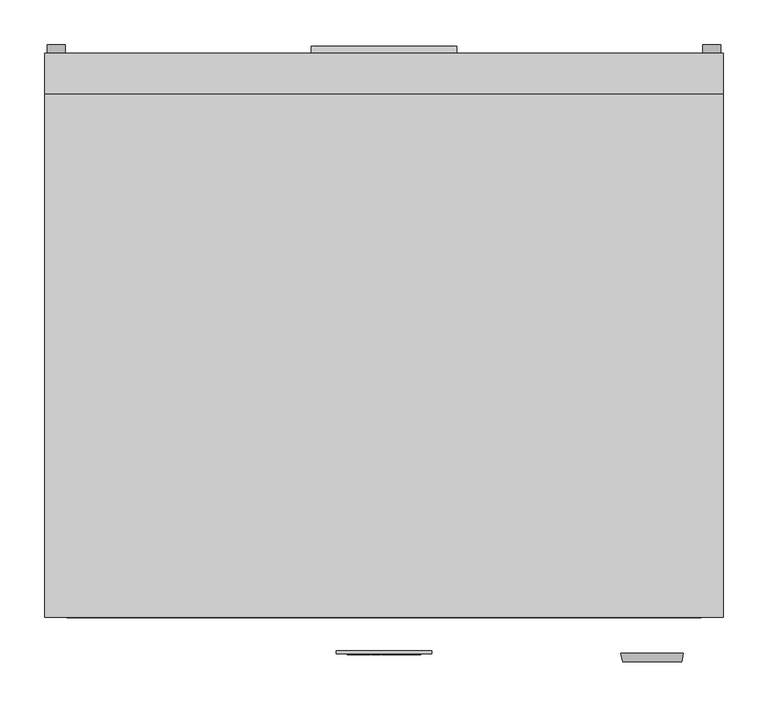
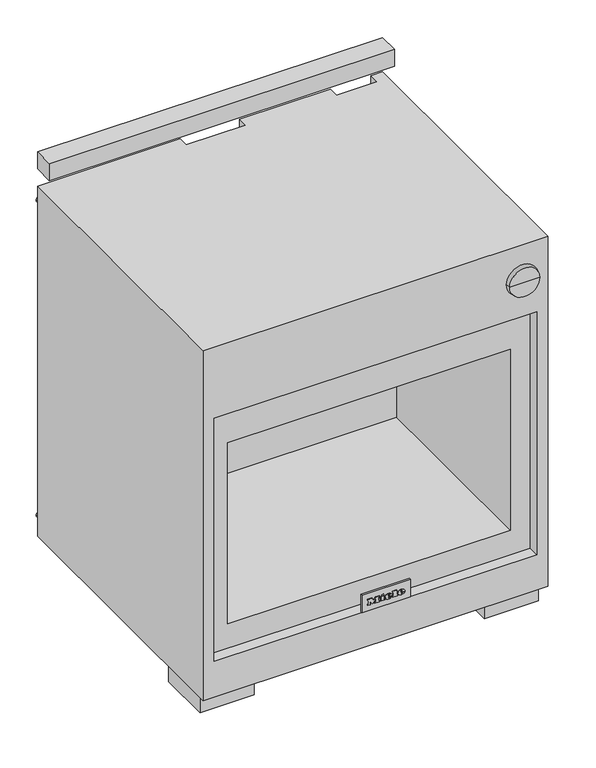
"""IFC4 building model written with IfcOpenShell, lengths in millimetres: proxy geometry, 11791360_USA_HR1124-3G_EDST-CLST : 25112481_USA_11791360_HR1124-3G_EDST-CLST."""

import ifcopenshell
import ifcopenshell.guid

model = None  # the IFC model being written
_history = None  # IfcOwnerHistory: only IFC2X3 demands one
_inside = {}  # id of a spatial element -> (the spatial element, [elements in it])
_under = {}  # id of a project, library or spatial element -> (it, [spatial elements below it])
_declared = {}  # id of a project -> (the project, [libraries it declares])
_typed = {}  # id of a type object -> (the type object, [elements of that type])
_made_of = {}  # id of a material, layer set ... -> (it, [elements and type objects made of it])


def new_model(schema):
    """Start an empty IFC model of exactly this schema.

    Asked for "IFC4X3", IfcOpenShell would pick the latest addendum, in which some entities
    have other attributes; the version numbers below select the first issue.
    IFC2X3 requires an IfcOwnerHistory on every rooted entity: one is made here for all.
    """
    global model, _history
    if schema == "IFC4X3":
        model = ifcopenshell.file(schema_version=(4, 3, 0, 0))
    else:
        model = ifcopenshell.file(schema=schema)
    _inside.clear()
    _under.clear()
    _declared.clear()
    _typed.clear()
    _made_of.clear()
    _history = None
    if model.schema == "IFC2X3":
        org = make("IfcOrganization", Name="unknown")
        user = make(
            "IfcPersonAndOrganization",
            ThePerson=make("IfcPerson", FamilyName="unknown"),
            TheOrganization=org,
        )
        app = make(
            "IfcApplication",
            ApplicationDeveloper=org,
            Version="unknown",
            ApplicationFullName="unknown",
            ApplicationIdentifier="unknown",
        )
        _history = make(
            "IfcOwnerHistory",
            OwningUser=user,
            OwningApplication=app,
            ChangeAction="ADDED",
            CreationDate=0,
        )
    return model


def make(cls, **values):
    """One entity of the class cls with the attributes given. An attribute that is None is left unset."""
    return model.create_entity(
        cls, **{name: value for name, value in values.items() if value is not None}
    )


def rooted(cls, **values):
    """An entity with a GlobalId (a new one), such as an element, a storey or a relation."""
    return make(cls, GlobalId=ifcopenshell.guid.new(), OwnerHistory=_history, **values)


def si_unit(unit_type, name, prefix=None):
    """IfcSIUnit, for example si_unit("LENGTHUNIT", "METRE", prefix="MILLI")."""
    return make("IfcSIUnit", UnitType=unit_type, Prefix=prefix, Name=name)


def assignment(units):
    """IfcUnitAssignment: the units of a project."""
    return None if units is None else make("IfcUnitAssignment", Units=units)


def point(xyz):
    """IfcCartesianPoint."""
    return None if xyz is None else make("IfcCartesianPoint", Coordinates=xyz)


def direction(xyz):
    """IfcDirection."""
    return None if xyz is None else make("IfcDirection", DirectionRatios=xyz)


def frame(location, z_axis=None, x_axis=None):
    """IfcAxis2Placement3D, a coordinate frame: its origin and axes. An axis left out is left unset."""
    return make(
        "IfcAxis2Placement3D",
        Location=point(location),
        Axis=direction(z_axis),
        RefDirection=direction(x_axis),
    )


def frame_2d(location, x_axis=None):
    """IfcAxis2Placement2D, a coordinate frame in the plane: its origin and x axis."""
    return make(
        "IfcAxis2Placement2D", Location=point(location), RefDirection=direction(x_axis)
    )


def origin():
    """The frame at (0, 0, 0) with its axes left unset."""
    return frame((0.0, 0.0, 0.0))


def origin_with_axes():
    """The frame at (0, 0, 0) with the z axis (0, 0, 1) and the x axis (1, 0, 0) written out."""
    return frame((0.0, 0.0, 0.0), z_axis=(0.0, 0.0, 1.0), x_axis=(1.0, 0.0, 0.0))


def place(relative_to, where):
    """IfcLocalPlacement: puts the frame where relative to a parent placement (None: the world)."""
    return make(
        "IfcLocalPlacement", PlacementRelTo=relative_to, RelativePlacement=where
    )


def context(
    kind, dimensions, precision=None, world=None, true_north=None, identifier=None
):
    """IfcGeometricRepresentationContext, for example the 3D "Model" context."""
    return make(
        "IfcGeometricRepresentationContext",
        ContextIdentifier=identifier,
        ContextType=kind,
        CoordinateSpaceDimension=dimensions,
        Precision=precision,
        WorldCoordinateSystem=world,
        TrueNorth=true_north,
    )


def project(units=None, contexts=None):
    """IfcProject with its units and contexts."""
    return rooted(
        "IfcProject",
        Name="project",
        RepresentationContexts=contexts,
        UnitsInContext=assignment(units),
    )


def spatial(cls, under=None, at=None, **own):
    """A site, building, storey or space (cls), placed at a placement, below another one or the project."""
    s = rooted(cls, ObjectPlacement=at, **own)
    if under is not None:
        _under.setdefault(under.id(), (under, []))[1].append(s)
    return s


def polyline(points):
    """IfcPolyline through the points."""
    return make("IfcPolyline", Points=[point(p) for p in points])


def circle_curve(where, radius):
    """IfcCircle in the frame where."""
    return make("IfcCircle", Position=where, Radius=radius)


def ellipse_curve(where, semi_axis1, semi_axis2):
    """IfcEllipse in the frame where."""
    return make(
        "IfcEllipse", Position=where, SemiAxis1=semi_axis1, SemiAxis2=semi_axis2
    )


def trimmed(basis, trim1, trim2, sense, master):
    """IfcTrimmedCurve: the piece of a basis curve between two trims."""
    return make(
        "IfcTrimmedCurve",
        BasisCurve=basis,
        Trim1=trim1,
        Trim2=trim2,
        SenseAgreement=sense,
        MasterRepresentation=master,
    )


def segment(curve, same_sense, transition):
    """IfcCompositeCurveSegment."""
    return make(
        "IfcCompositeCurveSegment",
        Transition=transition,
        SameSense=same_sense,
        ParentCurve=curve,
    )


def composite_curve(segments, self_intersect=None):
    """IfcCompositeCurve: segments joined end to end."""
    return make("IfcCompositeCurve", Segments=segments, SelfIntersect=self_intersect)


def outline(outer, holes=None, kind="AREA"):
    """IfcArbitraryClosedProfileDef: a profile drawn as a closed curve; with holes, ...WithVoids."""
    if holes is None:
        return make("IfcArbitraryClosedProfileDef", ProfileType=kind, OuterCurve=outer)
    return make(
        "IfcArbitraryProfileDefWithVoids",
        ProfileType=kind,
        OuterCurve=outer,
        InnerCurves=holes,
    )


def extrude(swept, where, along, depth):
    """IfcExtrudedAreaSolid: the profile swept, set in the frame where, extruded along a direction by depth."""
    return make(
        "IfcExtrudedAreaSolid",
        SweptArea=swept,
        Position=where,
        ExtrudedDirection=direction(along),
        Depth=depth,
    )


def faces_of(points, faces, orient=None, outer=None):
    """IfcFace entities. A face is a list of loops; a loop is a list of indices into points, from 0.

    orient and outer hold one flag for each loop. By default every Orientation is true, the
    first loop of a face is its IfcFaceOuterBound and the others are IfcFaceBound.
    """
    made = []
    for i, loops in enumerate(faces):
        bounds = []
        for j, loop in enumerate(loops):
            is_outer = j == 0 if outer is None else outer[i][j]
            bounds.append(
                make(
                    "IfcFaceOuterBound" if is_outer else "IfcFaceBound",
                    Bound=make("IfcPolyLoop", Polygon=[points[k] for k in loop]),
                    Orientation=True if orient is None else orient[i][j],
                )
            )
        made.append(make("IfcFace", Bounds=bounds))
    return made


def faceted_brep(points, faces, orient=None, outer=None, voids=None):
    """IfcFacetedBrep: a solid bounded by flat faces; with voids (closed shells), ...WithVoids."""
    shared = [point(p) for p in points]
    hull = make("IfcClosedShell", CfsFaces=faces_of(shared, faces, orient, outer))
    if voids is None:
        return make("IfcFacetedBrep", Outer=hull)
    return make(
        "IfcFacetedBrepWithVoids",
        Outer=hull,
        Voids=[
            make(cls, CfsFaces=faces_of(shared, fs, o, b)) for cls, fs, o, b in voids
        ],
    )


def shape(context_of_items, identifier, shape_type, items):
    """IfcShapeRepresentation: the items that make up one representation, for example the "Body"."""
    return make(
        "IfcShapeRepresentation",
        ContextOfItems=context_of_items,
        RepresentationIdentifier=identifier,
        RepresentationType=shape_type,
        Items=items,
    )


def source(mapping_origin, context_of_items, identifier, shape_type, items):
    """IfcRepresentationMap: a shape defined once, which mapped items show again and again."""
    return make(
        "IfcRepresentationMap",
        MappingOrigin=mapping_origin,
        MappedRepresentation=shape(context_of_items, identifier, shape_type, items),
    )


def transform(
    local_origin,
    x_axis=None,
    y_axis=None,
    z_axis=None,
    scale=None,
    scale2=None,
    scale3=None,
    uniform=True,
):
    """IfcCartesianTransformationOperator3D, or its non-uniform kind. x_axis, y_axis, z_axis: its Axis1, 2, 3."""
    if uniform:
        return make(
            "IfcCartesianTransformationOperator3D",
            Axis1=direction(x_axis),
            Axis2=direction(y_axis),
            LocalOrigin=point(local_origin),
            Scale=scale,
            Axis3=direction(z_axis),
        )
    return make(
        "IfcCartesianTransformationOperator3DnonUniform",
        Axis1=direction(x_axis),
        Axis2=direction(y_axis),
        LocalOrigin=point(local_origin),
        Scale=scale,
        Axis3=direction(z_axis),
        Scale2=scale2,
        Scale3=scale3,
    )


def mapped(mapping_source, mapping_target):
    """IfcMappedItem: shows the shape of a source again, moved by a transform."""
    return make(
        "IfcMappedItem", MappingSource=mapping_source, MappingTarget=mapping_target
    )


def made_of(thing, what):
    """Note that an element or type object is made of a material, layer set ...; save() writes the relation."""
    if what is not None:
        _made_of.setdefault(what.id(), (what, []))[1].append(thing)
    return thing


def element(
    cls,
    number,
    at=None,
    inside=None,
    cuts=None,
    type_object=None,
    material=None,
    context=None,
    identifier="Body",
    shape_type=None,
    held_by="IfcProductDefinitionShape",
    body=None,
    shapes=None,
    **own,
):
    """One element of the class cls, such as IfcWall. Its Tag is "e" and its number.

    at: its placement. inside: the storey or other place that contains it. cuts: it is an
    opening in that element (IfcRelVoidsElement). A single representation is given by context,
    identifier, shape_type and body (its items); several are given by shapes. held_by: the class
    of the entity that holds the representations. save() writes the other relations.
    """
    e = rooted(cls, Tag="e%d" % number, ObjectPlacement=at, **own)
    if body is not None:
        shapes = [shape(context, identifier, shape_type, body)]
    if shapes is not None:
        e.Representation = make(held_by, Representations=shapes)
    if inside is not None:
        _inside.setdefault(inside.id(), (inside, []))[1].append(e)
    if cuts is not None:
        rooted(
            "IfcRelVoidsElement", RelatingBuildingElement=cuts, RelatedOpeningElement=e
        )
    if type_object is not None:
        _typed.setdefault(type_object.id(), (type_object, []))[1].append(e)
    return made_of(e, material)


def aggregate(whole, parts):
    """IfcRelAggregates: a whole, such as a stair, and the parts it consists of."""
    return rooted("IfcRelAggregates", RelatingObject=whole, RelatedObjects=parts)


def save(model, path):
    """Write the relations noted so far, then the file.

    IfcRelAggregates (storeys below a building ...), IfcRelContainedInSpatialStructure (elements
    in a storey), IfcRelDefinesByType, IfcRelAssociatesMaterial and IfcRelDeclares: one each for
    every whole, place, type object, material and project.
    """
    for whole, parts in _under.values():
        aggregate(whole, parts)
    for where, things in _inside.values():
        rooted(
            "IfcRelContainedInSpatialStructure",
            RelatedElements=things,
            RelatingStructure=where,
        )
    for kind, things in _typed.values():
        rooted("IfcRelDefinesByType", RelatedObjects=things, RelatingType=kind)
    for what, things in _made_of.values():
        rooted("IfcRelAssociatesMaterial", RelatedObjects=things, RelatingMaterial=what)
    for by, libraries in _declared.values():
        rooted("IfcRelDeclares", RelatingContext=by, RelatedDefinitions=libraries)
    model.write(path)


def plane_surface(at):
    """IfcPlane: the flat surface through the origin of the frame at, square to its z axis."""
    return make("IfcPlane", Position=at)


def cylinder_surface(at, radius):
    """IfcCylindricalSurface: all points at the distance radius from the z axis of the frame at."""
    return make("IfcCylindricalSurface", Position=at, Radius=radius)


def revolved_surface(curve, axis_point, axis_direction):
    """IfcSurfaceOfRevolution: the curve turned about the line through axis_point along axis_direction."""
    return make(
        "IfcSurfaceOfRevolution",
        SweptCurve=make("IfcArbitraryOpenProfileDef", ProfileType="CURVE", Curve=curve),
        AxisPosition=make("IfcAxis1Placement", Location=point(axis_point), Axis=direction(axis_direction)),
    )


def extruded_surface(curve, direction_of_extrusion, depth):
    """IfcSurfaceOfLinearExtrusion: the curve pushed along a direction by depth."""
    return make(
        "IfcSurfaceOfLinearExtrusion",
        SweptCurve=make("IfcArbitraryOpenProfileDef", ProfileType="CURVE", Curve=curve),
        ExtrudedDirection=direction(direction_of_extrusion),
        Depth=depth,
    )


def advanced_brep(points, edges, surfaces, faces):
    """IfcAdvancedBrep: a solid bounded by faces that lie on surfaces and meet in shared edges.

    An edge is (start, end): straight between two places in points (the first is 0);
    or (start, end, curve); or (start, end, curve, False) where it runs against its curve.
    A face is (place in surfaces, loops), or (place, loops, False) where it looks against
    its surface's normal. A loop lists edges by number (the first is 1), with a minus sign
    where the edge is run from its end to its start. The first loop is the outer one.
    """
    corners = [point(p) for p in points]
    vertices = [make("IfcVertexPoint", VertexGeometry=c) for c in corners]
    made = []
    for start, end, *more in edges:
        made.append(
            make(
                "IfcEdgeCurve",
                EdgeStart=vertices[start],
                EdgeEnd=vertices[end],
                EdgeGeometry=more[0] if more else make("IfcPolyline", Points=[corners[start], corners[end]]),
                SameSense=more[1] if len(more) > 1 else True,
            )
        )
    hull = []
    for where, loops, *sense in faces:
        bounds = []
        for j, loop in enumerate(loops):
            ring = [make("IfcOrientedEdge", EdgeElement=made[abs(k) - 1], Orientation=k > 0) for k in loop]
            bounds.append(
                make(
                    "IfcFaceOuterBound" if j == 0 else "IfcFaceBound",
                    Bound=make("IfcEdgeLoop", EdgeList=ring),
                    Orientation=True,
                )
            )
        hull.append(make("IfcAdvancedFace", Bounds=bounds, FaceSurface=surfaces[where], SameSense=sense[0] if sense else True))
    return make("IfcAdvancedBrep", Outer=make("IfcClosedShell", CfsFaces=hull))


def specialty_equipment_9f55172a(model_context):
    return source(origin(), model_context, "Body", "SolidModel", [
        advanced_brep(
        [(267.7632698, -683.0, 813.0), (334.2367302, -683.0, 813.0), (301.0, -683.0, 813.0), (266.0, -673.0, 813.0), (336.0, -673.0, 813.0), (301.0, -673.0, 813.0)],
        [
            (0, 1, circle_curve(frame((301.0, -683.0, 813.0), z_axis=(0.0, -1.0, 0.0), x_axis=(1.0, 0.0, 0.0)), 33.2367302)),
            (1, 2),
            (2, 0),
            (1, 0, circle_curve(frame((301.0, -683.0, 813.0), z_axis=(0.0, -1.0, 0.0), x_axis=(1.0, 0.0, 0.0)), 33.2367302)),
            (3, 4, circle_curve(frame((301.0, -673.0, 813.0), z_axis=(0.0, -1.0, 0.0), x_axis=(1.0, 0.0, 0.0)), 35.0)),
            (4, 1),
            (0, 3),
            (4, 3, circle_curve(frame((301.0, -673.0, 813.0), z_axis=(0.0, -1.0, 0.0), x_axis=(1.0, 0.0, 0.0)), 35.0)),
            (5, 4),
            (3, 5),
        ],
        [
            plane_surface(frame((301.0, -683.0, 813.0), z_axis=(0.0, -1.0, 0.0), x_axis=(1.0, 0.0, 0.0))),
            revolved_surface(polyline([(334.2367302, -683.0, 813.0), (336.0, -673.0, 813.0)]), (301.0, 751.3738435, 813.0), (0.0, 1.0, 0.0)),
            plane_surface(frame((301.0, -673.0, 813.0), z_axis=(0.0, 1.0, 0.0), x_axis=(1.0, 0.0, 0.0))),
        ],
        [
            (0, [[1, 2, 3]]),
            (0, [[4, -3, -2]]),
            (1, [[5, 6, -1, 7]]),
            (1, [[8, -7, -4, -6]]),
            (2, [[9, -5, 10]]),
            (2, [[-10, -8, -9]]),
        ],
    ),
        extrude(outline(composite_curve([segment(trimmed(circle_curve(frame_2d((822.0, 368.0)), 10.0), [point((822.0, 378.0))], [point((822.0, 358.0))], False, "CARTESIAN"), True, "CONTINUOUS"), segment(trimmed(circle_curve(frame_2d((822.0, 368.0)), 10.0), [point((822.0, 358.0))], [point((822.0, 378.0))], False, "CARTESIAN"), True, "CONTINUOUS")], self_intersect=False)), frame((0.0, 0.0, 0.0), z_axis=(0.0, 1.0, 0.0), x_axis=(0.0, 0.0, 1.0)), (0.0, 0.0, 1.0), 10.0),
        extrude(outline(composite_curve([segment(trimmed(circle_curve(frame_2d((87.0, 368.0)), 10.0), [point((87.0, 378.0))], [point((87.0, 358.0))], False, "CARTESIAN"), True, "CONTINUOUS"), segment(trimmed(circle_curve(frame_2d((87.0, 368.0)), 10.0), [point((87.0, 358.0))], [point((87.0, 378.0))], False, "CARTESIAN"), True, "CONTINUOUS")], self_intersect=False)), frame((0.0, 0.0, 0.0), z_axis=(0.0, 1.0, 0.0), x_axis=(0.0, 0.0, 1.0)), (0.0, 0.0, 1.0), 10.0),
        extrude(outline(composite_curve([segment(trimmed(circle_curve(frame_2d((822.0, -368.0)), 10.0), [point((822.0, -358.0))], [point((822.0, -378.0))], False, "CARTESIAN"), True, "CONTINUOUS"), segment(trimmed(circle_curve(frame_2d((822.0, -368.0)), 10.0), [point((822.0, -378.0))], [point((822.0, -358.0))], False, "CARTESIAN"), True, "CONTINUOUS")], self_intersect=False)), frame((0.0, 0.0, 0.0), z_axis=(0.0, 1.0, 0.0), x_axis=(0.0, 0.0, 1.0)), (0.0, 0.0, 1.0), 10.0),
        extrude(outline(composite_curve([segment(trimmed(circle_curve(frame_2d((87.0, -368.0)), 10.0), [point((87.0, -358.0))], [point((87.0, -378.0))], False, "CARTESIAN"), True, "CONTINUOUS"), segment(trimmed(circle_curve(frame_2d((87.0, -368.0)), 10.0), [point((87.0, -378.0))], [point((87.0, -358.0))], False, "CARTESIAN"), True, "CONTINUOUS")], self_intersect=False)), frame((0.0, 0.0, 0.0), z_axis=(0.0, 1.0, 0.0), x_axis=(0.0, 0.0, 1.0)), (0.0, 0.0, 1.0), 10.0),
        extrude(outline(polyline([(-258.0, 0.0), (170.0, 0.0), (170.0, -39.0), (-258.0, -39.0), (-258.0, 0.0)])), frame((0.0, 0.0, 117.0), z_axis=(0.0, 0.0, 1.0), x_axis=(1.0, 0.0, 0.0)), (0.0, 0.0, 1.0), 15.0),
        extrude(outline(polyline([(275.0, -23.0), (344.0, -23.0), (344.0, -53.0), (275.0, -53.0), (275.0, -23.0)])), frame((0.0, 0.0, 117.0), z_axis=(0.0, 0.0, 1.0), x_axis=(1.0, 0.0, 0.0)), (0.0, 0.0, 1.0), 15.0),
        extrude(outline(polyline([(-81.5, 8.0), (81.5, 8.0), (81.5, 0.0), (-81.5, 0.0), (-81.5, 8.0)])), frame((0.0, 0.0, 559.0), z_axis=(0.0, 0.0, 1.0), x_axis=(1.0, 0.0, 0.0)), (0.0, 0.0, 1.0), 237.0),
        extrude(outline(composite_curve([segment(trimmed(circle_curve(frame_2d((-152.0, 39.6862697)), 39.6862697), [point((-112.6710759, 45.0))], [point((-191.3289241, 45.0))], False, "CARTESIAN"), True, "CONTINUOUS"), segment(polyline([(-191.3289241, 45.0), (-112.6710759, 45.0)]), True, "CONTINUOUS")], self_intersect=False)), frame((206.0, 0.0, 0.0), z_axis=(1.0, 0.0, 0.0), x_axis=(0.0, 1.0, 0.0)), (0.0, 0.0, 1.0), 28.0),
        extrude(outline(composite_curve([segment(polyline([(-308.0009008, -40.0), (-309.2635363, -40.0), (-309.0191787, -38.9415709), (-308.8778726, -34.1117735)]), True, "CONTINUOUS"), segment(trimmed(circle_curve(frame_2d((-307.387549, -34.1553762)), 1.4909613), [point((-308.8778726, -34.1117735))], [point((-307.6381402, -32.6856246))], False, "CARTESIAN"), True, "CONTINUOUS"), segment(trimmed(circle_curve(frame_2d((-306.1175682, -37.7832301)), 5.3195602), [point((-307.6381402, -32.6856246))], [point((-304.440667, -32.7348914))], False, "CARTESIAN"), True, "CONTINUOUS"), segment(polyline([(-304.440667, -32.7348914), (-303.3643767, -33.4338425), (-302.8177226, -34.6616478), (-304.0710839, -34.8155412), (-304.6628147, -33.9704619)]), True, "CONTINUOUS"), segment(trimmed(circle_curve(frame_2d((-305.889909, -36.6278559)), 2.9270297), [point((-304.6628147, -33.9704619))], [point((-307.335883, -34.0829271))], True, "CARTESIAN"), True, "CONTINUOUS"), segment(polyline([(-307.335883, -34.0829271), (-307.6819155, -35.289686), (-304.4250607, -35.9227545)]), True, "CONTINUOUS"), segment(trimmed(circle_curve(frame_2d((-304.8373847, -38.0439776)), 2.1609254), [point((-304.4250607, -35.9227545))], [point((-303.2872437, -39.5495212))], False, "CARTESIAN"), True, "CONTINUOUS"), segment(trimmed(circle_curve(frame_2d((-305.2230106, -36.6941434)), 3.4496922), [point((-303.2872437, -39.5495212))], [point((-306.4810512, -39.9062626))], False, "CARTESIAN"), True, "CONTINUOUS"), segment(polyline([(-306.4810512, -39.9062626), (-307.6943945, -39.0566705), (-308.0009008, -40.0)]), True, "CONTINUOUS")], self_intersect=False), holes=[composite_curve([segment(polyline([(-307.6808047, -36.7241112), (-307.4778117, -37.8753414), (-306.6808418, -38.5929363), (-305.3846505, -38.8921857)]), True, "CONTINUOUS"), segment(trimmed(circle_curve(frame_2d((-305.1641539, -37.9371101)), 0.980198), [point((-305.3846505, -38.8921857))], [point((-304.5826105, -37.148063))], True, "CARTESIAN"), True, "CONTINUOUS"), segment(polyline([(-304.5826105, -37.148063), (-305.683896, -36.9339948), (-307.6808047, -36.7241112)]), True, "CONTINUOUS")], self_intersect=False)]), frame((0.0, 0.0, 753.0), z_axis=(0.0, 0.0, 1.0), x_axis=(1.0, 0.0, 0.0)), (0.0, 0.0, 1.0), 1.0),
        extrude(outline(composite_curve([segment(polyline([(-311.4581842, -37.6489066), (-310.202206, -37.8031213), (-311.1593436, -39.5606642)]), True, "CONTINUOUS"), segment(trimmed(circle_curve(frame_2d((-313.3057471, -36.6354063)), 3.6282478), [point((-311.1593436, -39.5606642))], [point((-314.8962663, -39.8964538))], False, "CARTESIAN"), True, "CONTINUOUS"), segment(trimmed(circle_curve(frame_2d((-313.7731504, -37.593725)), 2.5620205), [point((-314.8962663, -39.8964538))], [point((-316.32893, -37.7724425))], False, "CARTESIAN"), True, "CONTINUOUS"), segment(trimmed(circle_curve(frame_2d((-314.617737, -37.6527843)), 1.7153715), [point((-316.32893, -37.7724425))], [point((-315.147816, -36.021369))], False, "CARTESIAN"), True, "CONTINUOUS"), segment(polyline([(-315.147816, -36.021369), (-313.3069947, -35.4232499), (-311.987673, -33.9770867)]), True, "CONTINUOUS"), segment(trimmed(circle_curve(frame_2d((-313.1408399, -36.351197)), 2.6393548), [point((-311.987673, -33.9770867))], [point((-314.2940069, -33.9770867))], True, "CARTESIAN"), True, "CONTINUOUS"), segment(polyline([(-314.2940069, -33.9770867), (-314.7553884, -34.6611129), (-316.0084996, -34.5072502), (-315.5756304, -33.3795875)]), True, "CONTINUOUS"), segment(trimmed(circle_curve(frame_2d((-312.9527143, -36.6576461)), 4.1982564), [point((-315.5756304, -33.3795875))], [point((-313.0505395, -32.4605295))], False, "CARTESIAN"), True, "CONTINUOUS"), segment(trimmed(circle_curve(frame_2d((-312.9805679, -35.4626064)), 3.0028922), [point((-313.0505395, -32.4605295))], [point((-310.5718203, -33.6694816))], False, "CARTESIAN"), True, "CONTINUOUS"), segment(trimmed(circle_curve(frame_2d((-312.4380028, -34.5301363)), 2.0550823), [point((-310.5718203, -33.6694816))], [point((-311.4341096, -36.323335))], False, "CARTESIAN"), True, "CONTINUOUS"), segment(polyline([(-311.4341096, -36.323335), (-313.3494535, -36.9828408), (-315.0597255, -37.9076387), (-314.6768706, -38.6156702)]), True, "CONTINUOUS"), segment(trimmed(circle_curve(frame_2d((-313.3695779, -35.6018954)), 3.2850956), [point((-314.6768706, -38.6156702))], [point((-312.0622852, -38.6156702))], True, "CARTESIAN"), True, "CONTINUOUS"), segment(polyline([(-312.0622852, -38.6156702), (-311.4581842, -37.6489066)]), True, "CONTINUOUS")], self_intersect=False)), frame((0.0, 0.0, 753.0), z_axis=(0.0, 0.0, 1.0), x_axis=(1.0, 0.0, 0.0)), (0.0, 0.0, 1.0), 1.0),
        extrude(outline(composite_curve([segment(polyline([(-301.0941465, -34.8216074), (-297.0193946, -34.8216074), (-297.0193946, -36.0727848), (-299.8300756, -36.0727848), (-299.8300756, -37.8953779), (-298.5547934, -38.5734575), (-296.8554891, -38.8730907)]), True, "CONTINUOUS"), segment(trimmed(circle_curve(frame_2d((-296.7763582, -35.1835188)), 3.6904203), [point((-296.8554891, -38.8730907))], [point((-293.0917956, -34.975672))], True, "CARTESIAN"), True, "CONTINUOUS"), segment(trimmed(circle_curve(frame_2d((-297.2742118, -35.2116028)), 4.1890654), [point((-293.0917956, -34.975672))], [point((-296.8924604, -31.0399683))], True, "CARTESIAN"), True, "CONTINUOUS"), segment(trimmed(circle_curve(frame_2d((-297.1434541, -33.7827322)), 2.7542243), [point((-296.8924604, -31.0399683))], [point((-299.2311401, -31.9862582))], True, "CARTESIAN"), True, "CONTINUOUS"), segment(polyline([(-299.2311401, -31.9862582), (-299.7913432, -33.1348449), (-300.9545959, -32.808521), (-300.2222817, -31.1459412)]), True, "CONTINUOUS"), segment(trimmed(circle_curve(frame_2d((-297.0056573, -34.3038983)), 4.5077007), [point((-300.2222817, -31.1459412))], [point((-296.8478593, -29.7989604))], False, "CARTESIAN"), True, "CONTINUOUS"), segment(trimmed(circle_curve(frame_2d((-297.0297107, -35.0029797)), 5.2071956), [point((-296.8478593, -29.7989604))], [point((-291.8225151, -35.0029797))], False, "CARTESIAN"), True, "CONTINUOUS"), segment(trimmed(circle_curve(frame_2d((-297.0187023, -34.9634409)), 5.1963376), [point((-291.8225151, -35.0029797))], [point((-297.0187023, -40.1597785))], False, "CARTESIAN"), True, "CONTINUOUS"), segment(polyline([(-297.0187023, -40.1597785), (-299.0821579, -39.7823822), (-301.0941465, -38.5734575), (-301.0941465, -34.8216074)]), True, "CONTINUOUS")], self_intersect=False)), frame((0.0, 0.0, 753.0), z_axis=(0.0, 0.0, 1.0), x_axis=(1.0, 0.0, 0.0)), (0.0, 0.0, 1.0), 1.0),
        faceted_brep([(356.0, -608.0, 695.0), (-356.0, -608.0, 695.0), (-356.0, -608.0, 128.0), (356.0, -608.0, 128.0), (312.0, -608.0, 608.0), (312.0, -608.0, 185.0), (-312.0, -608.0, 185.0), (-312.0, -608.0, 608.0), (356.0, -633.0, 128.0), (356.0, -633.0, 695.0), (-356.0, -633.0, 128.0), (-356.0, -633.0, 695.0), (-381.0, 0.0, 862.0), (-381.0, -633.0, 862.0), (381.0, -633.0, 862.0), (381.0, 0.0, 862.0), (356.0, 0.0, 862.0), (356.0, -23.0, 862.0), (266.0, -23.0, 862.0), (266.0, 0.0, 862.0), (65.0, 0.0, 862.0), (65.0, -23.0, 862.0), (-66.0, -23.0, 862.0), (-66.0, 0.0, 862.0), (381.0, 0.0, 45.0), (381.0, -633.0, 45.0), (-381.0, -633.0, 45.0), (-381.0, 0.0, 45.0), (-356.0, 0.0, 45.0), (-356.0, -75.0, 45.0), (356.0, -75.0, 45.0), (356.0, 0.0, 45.0), (266.0, 0.0, 132.0), (65.0, 0.0, 132.0), (-66.0, 0.0, 132.0), (-270.0, 0.0, 132.0), (-270.0, 0.0, 784.0), (-335.0, 0.0, 784.0), (-335.0, 0.0, 132.0), (-356.0, 0.0, 132.0), (312.0, -173.0, 608.0), (-312.0, -173.0, 608.0), (-312.0, -173.0, 185.0), (312.0, -173.0, 185.0), (-356.0, -75.0, 132.0), (356.0, -75.0, 132.0), (-335.0, -73.0, 132.0), (-270.0, -73.0, 132.0), (-66.0, -23.0, 132.0), (65.0, -23.0, 132.0), (266.0, -23.0, 132.0), (356.0, -23.0, 132.0), (-335.0, -73.0, 784.0), (-270.0, -73.0, 784.0)], [[[0, 1, 2, 3], [4, 5, 6, 7]], [[0, 3, 8, 9]], [[3, 2, 10, 8]], [[2, 1, 11, 10]], [[1, 0, 9, 11]], [[12, 13, 14, 15, 16, 17, 18, 19, 20, 21, 22, 23]], [[24, 25, 26, 27, 28, 29, 30, 31]], [[20, 19, 32, 33]], [[15, 24, 31, 16]], [[27, 12, 23, 34, 35, 36, 37, 38, 39, 28]], [[13, 12, 27, 26]], [[14, 13, 26, 25], [9, 8, 10, 11]], [[15, 14, 25, 24]], [[40, 41, 42, 43]], [[40, 43, 5, 4]], [[43, 42, 6, 5]], [[42, 41, 7, 6]], [[41, 40, 4, 7]], [[44, 45, 30, 29]], [[45, 44, 39, 38, 46, 47, 35, 34, 48, 49, 33, 32, 50, 51]], [[30, 45, 51, 17, 16, 31]], [[39, 44, 29, 28]], [[52, 53, 47, 46]], [[53, 52, 37, 36]], [[53, 36, 35, 47]], [[37, 52, 46, 38]], [[17, 51, 50, 18]], [[21, 49, 48, 22]], [[49, 21, 20, 33]], [[22, 48, 34, 23]], [[18, 50, 32, 19]]]),
        extrude(outline(polyline([(246.4261097, -48.2846028), (239.1553153, -48.2846028), (239.1553153, -47.0259878), (245.1324687, -47.0259878), (245.1324687, -44.0398896), (239.4699511, -44.0398896), (239.4699511, -42.7868997), (245.1324687, -42.7868997), (245.1324687, -39.484481), (239.0234692, -39.484481), (239.0234692, -38.223126), (246.4261097, -38.223126), (246.4261097, -48.2846028)])), frame((0.0, 0.0, 101.0), z_axis=(0.0, 0.0, 1.0), x_axis=(1.0, 0.0, 0.0)), (0.0, 0.0, 1.0), 1.0),
        extrude(outline(polyline([(237.0939455, -48.2781045), (230.9083542, -48.2781045), (230.9083542, -47.0259878), (235.9083542, -47.0259878), (235.9083542, -38.223126), (237.0939455, -38.223126), (237.0939455, -48.2781045)])), frame((0.0, 0.0, 101.0), z_axis=(0.0, 0.0, 1.0), x_axis=(1.0, 0.0, 0.0)), (0.0, 0.0, 1.0), 1.0),
        extrude(outline(composite_curve([segment(trimmed(circle_curve(frame_2d((239.0, -44.0)), 7.5), [point((239.0, -51.5))], [point((239.0, -36.5))], False, "CARTESIAN"), True, "CONTINUOUS"), segment(trimmed(circle_curve(frame_2d((239.0, -44.0)), 7.5), [point((239.0, -36.5))], [point((239.0, -51.5))], False, "CARTESIAN"), True, "CONTINUOUS")], self_intersect=False)), frame((0.0, 0.0, 102.0), z_axis=(0.0, 0.0, 1.0), x_axis=(1.0, 0.0, 0.0)), (0.0, 0.0, 1.0), 30.0),
        extrude(outline(composite_curve([segment(trimmed(circle_curve(frame_2d((-304.0, -35.0)), 7.5), [point((-311.5, -35.0))], [point((-296.5, -35.0))], False, "CARTESIAN"), True, "CONTINUOUS"), segment(trimmed(circle_curve(frame_2d((-304.0, -35.0)), 7.5), [point((-296.5, -35.0))], [point((-311.5, -35.0))], False, "CARTESIAN"), True, "CONTINUOUS")], self_intersect=False)), frame((0.0, 0.0, 754.0), z_axis=(0.0, 0.0, 1.0), x_axis=(1.0, 0.0, 0.0)), (0.0, 0.0, 1.0), 30.0),
        extrude(outline(composite_curve([segment(trimmed(circle_curve(frame_2d((-152.0, 39.6862697)), 39.6862697), [point((-112.6710759, 45.0))], [point((-191.3289241, 45.0))], False, "CARTESIAN"), True, "CONTINUOUS"), segment(polyline([(-191.3289241, 45.0), (-112.6710759, 45.0)]), True, "CONTINUOUS")], self_intersect=False)), frame((-234.0, 0.0, 0.0), z_axis=(1.0, 0.0, 0.0), x_axis=(0.0, 1.0, 0.0)), (0.0, 0.0, 1.0), 28.0),
        extrude(outline(polyline([(-254.0, -489.0), (-254.0, -609.0), (-374.0, -609.0), (-374.0, -489.0), (-254.0, -489.0)])), origin_with_axes(), (0.0, 0.0, 1.0), 45.0),
        extrude(outline(polyline([(374.0, -489.0), (374.0, -609.0), (254.0, -609.0), (254.0, -489.0), (374.0, -489.0)])), origin_with_axes(), (0.0, 0.0, 1.0), 45.0),
        advanced_brep(
        [(32.17, -675.0, 177.1995), (32.17, -675.0, 178.563), (41.2015, -675.0, 178.563), (25.4875, -675.0, 178.563), (29.2, -675.0, 174.0), (40.972, -675.0, 177.1995), (36.895, -675.0, 177.1995), (33.682, -675.0, 175.6875), (32.17, -675.0, 180.291), (32.17, -675.0, 181.7625), (34.4785, -675.0, 181.7625), (34.4785, -675.0, 180.291), (32.17, -674.0, 177.1995), (33.682, -674.0, 175.6875), (36.895, -674.0, 177.1995), (40.972, -674.0, 177.1995), (29.2, -674.0, 174.0), (25.4875, -674.0, 178.563), (41.2015, -674.0, 178.563), (32.17, -674.0, 178.563), (32.17, -674.0, 180.291), (34.4785, -674.0, 180.291), (34.4785, -674.0, 181.7625), (32.17, -674.0, 181.7625)],
        [
            (0, 1),
            (1, 2),
            (2, 3, ellipse_curve(frame((33.3445, -675.0, 178.563), z_axis=(0.0, -1.0, 0.0), x_axis=(-1.0, 0.0, 0.0)), 7.857, 6.4935)),
            (3, 4, circle_curve(frame((30.7120736, -675.0, 179.022), z_axis=(0.0, -1.0, 0.0), x_axis=(0.0, 0.0, -1.0)), 5.2446974)),
            (4, 5, circle_curve(frame((33.1872142, -675.0, 182.586), z_axis=(0.0, -1.0, 0.0), x_axis=(0.0, 0.0, -1.0)), 9.46664)),
            (5, 6),
            (6, 7, circle_curve(frame((34.3419118, -675.0, 178.455), z_axis=(0.0, 1.0, 0.0), x_axis=(0.0, 0.0, -1.0)), 2.8450905)),
            (7, 0, circle_curve(frame((33.682, -675.0, 177.1995), z_axis=(0.0, 1.0, 0.0), x_axis=(0.0, 0.0, -1.0)), 1.512)),
            (8, 9),
            (9, 10, circle_curve(frame((33.32425, -675.0, 181.7625), z_axis=(0.0, 1.0, 0.0), x_axis=(0.0, 0.0, -1.0)), 1.15425)),
            (10, 11),
            (11, 8),
            (12, 13, circle_curve(frame((33.682, -674.0, 177.1995), z_axis=(0.0, -1.0, 0.0), x_axis=(0.0, 0.0, -1.0)), 1.512)),
            (13, 14, circle_curve(frame((34.3419118, -674.0, 178.455), z_axis=(0.0, -1.0, 0.0), x_axis=(0.0, 0.0, -1.0)), 2.8450905)),
            (14, 15),
            (15, 16, circle_curve(frame((33.1872142, -674.0, 182.586), z_axis=(0.0, 1.0, 0.0), x_axis=(0.0, 0.0, -1.0)), 9.46664)),
            (16, 17, circle_curve(frame((30.7120736, -674.0, 179.022), z_axis=(0.0, 1.0, 0.0), x_axis=(0.0, 0.0, -1.0)), 5.2446974)),
            (17, 18, ellipse_curve(frame((33.3445, -674.0, 178.563), z_axis=(0.0, 1.0, 0.0), x_axis=(-1.0, 0.0, 0.0)), 7.857, 6.4935)),
            (18, 19),
            (19, 12),
            (20, 21),
            (21, 22),
            (22, 23, circle_curve(frame((33.32425, -674.0, 181.7625), z_axis=(0.0, -1.0, 0.0), x_axis=(0.0, 0.0, -1.0)), 1.15425)),
            (23, 20),
            (0, 12),
            (19, 1),
            (18, 2),
            (5, 15),
            (14, 6),
            (17, 3),
            (13, 7),
            (16, 4),
            (8, 20),
            (23, 9),
            (22, 10),
            (21, 11),
        ],
        [
            plane_surface(frame((32.17, -675.0, 178.563), z_axis=(0.0, -1.0, 0.0), x_axis=(0.0, 0.0, 1.0))),
            plane_surface(frame((32.17, -674.0, 178.563), z_axis=(0.0, 1.0, 0.0), x_axis=(0.0, 0.0, -1.0))),
            plane_surface(frame((32.17, -675.0, 177.1995), z_axis=(1.0, 0.0, 0.0), x_axis=(0.0, 1.0, 0.0))),
            plane_surface(frame((32.17, -675.0, 178.563), z_axis=(0.0, 0.0, -1.0), x_axis=(0.0, 1.0, 0.0))),
            plane_surface(frame((40.972, -675.0, 177.1995), z_axis=(0.0, 0.0, 1.0), x_axis=(0.0, 1.0, 0.0))),
            extruded_surface(trimmed(ellipse_curve(frame((33.3445, -673.0, 178.563), z_axis=(0.0, -1.0, 0.0), x_axis=(-1.0, 0.0, 0.0)), 7.857, 6.4935), [point((41.2015, -673.0, 178.563))], [point((25.4875, -673.0, 178.563))], True, "CARTESIAN"), (0.0, -1.0, 0.0), 1.0),
            revolved_surface(polyline([(34.3419118, -674.0, 175.60990950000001), (34.3419118, -675.0, 175.60990950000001)]), (34.3419118, -674.0, 178.455), (0.0, 1.0, 0.0)),
            revolved_surface(polyline([(33.682, -674.0, 175.6875), (33.682, -675.0, 175.6875)]), (33.682, -674.0, 177.1995), (0.0, 1.0, 0.0)),
            cylinder_surface(frame((30.7120736, -674.0, 179.022), z_axis=(0.0, -1.0, 0.0), x_axis=(0.0, 0.0, -1.0)), 5.2446974),
            cylinder_surface(frame((33.1872142, -674.0, 182.586), z_axis=(0.0, -1.0, 0.0), x_axis=(0.0, 0.0, -1.0)), 9.46664),
            plane_surface(frame((32.17, -675.0, 180.291), z_axis=(1.0, 0.0, 0.0), x_axis=(0.0, 1.0, 0.0))),
            revolved_surface(polyline([(33.32425, -674.0, 180.60825), (33.32425, -675.0, 180.60825)]), (33.32425, -674.0, 181.7625), (0.0, 1.0, 0.0)),
            plane_surface(frame((34.4785, -675.0, 181.7625), z_axis=(-1.0, 0.0, 0.0), x_axis=(0.0, 1.0, 0.0))),
            plane_surface(frame((34.4785, -675.0, 180.291), z_axis=(0.0, 0.0, 1.0), x_axis=(0.0, 1.0, 0.0))),
        ],
        [
            (0, [[1, 2, 3, 4, 5, 6, 7, 8], [9, 10, 11, 12]]),
            (1, [[13, 14, 15, 16, 17, 18, 19, 20], [21, 22, 23, 24]]),
            (2, [[-1, 25, -20, 26]]),
            (3, [[-2, -26, -19, 27]]),
            (4, [[-6, 28, -15, 29]]),
            (5, [[-3, -27, -18, 30]]),
            (6, [[-7, -29, -14, 31]]),
            (7, [[-8, -31, -13, -25]]),
            (8, [[-4, -30, -17, 32]]),
            (9, [[-5, -32, -16, -28]]),
            (10, [[-9, 33, -24, 34]]),
            (11, [[-10, -34, -23, 35]]),
            (12, [[-11, -35, -22, 36]]),
            (13, [[-12, -36, -21, -33]]),
        ],
    ),
        advanced_brep(
        [(3.9955, -675.0, 177.1995), (3.9955, -675.0, 178.563), (13.027, -675.0, 178.563), (-2.687, -675.0, 178.563), (1.0255, -675.0, 174.0), (12.7975, -675.0, 177.1995), (8.7205, -675.0, 177.1995), (5.5075, -675.0, 175.6875), (3.9955, -675.0, 180.291), (3.9955, -675.0, 181.7625), (6.304, -675.0, 181.7625), (6.304, -675.0, 180.291), (3.9955, -674.0, 177.1995), (5.5075, -674.0, 175.6875), (8.7205, -674.0, 177.1995), (12.7975, -674.0, 177.1995), (1.0255, -674.0, 174.0), (-2.687, -674.0, 178.563), (13.027, -674.0, 178.563), (3.9955, -674.0, 178.563), (3.9955, -674.0, 180.291), (6.304, -674.0, 180.291), (6.304, -674.0, 181.7625), (3.9955, -674.0, 181.7625)],
        [
            (0, 1),
            (1, 2),
            (2, 3, ellipse_curve(frame((5.17, -675.0, 178.563), z_axis=(0.0, -1.0, 0.0), x_axis=(-1.0, 0.0, 0.0)), 7.857, 6.4935)),
            (3, 4, circle_curve(frame((2.5375736, -675.0, 179.022), z_axis=(0.0, -1.0, 0.0), x_axis=(0.0, 0.0, -1.0)), 5.2446974)),
            (4, 5, circle_curve(frame((5.0127142, -675.0, 182.586), z_axis=(0.0, -1.0, 0.0), x_axis=(0.0, 0.0, -1.0)), 9.46664)),
            (5, 6),
            (6, 7, circle_curve(frame((6.1674118, -675.0, 178.455), z_axis=(0.0, 1.0, 0.0), x_axis=(0.0, 0.0, -1.0)), 2.8450905)),
            (7, 0, circle_curve(frame((5.5075, -675.0, 177.1995), z_axis=(0.0, 1.0, 0.0), x_axis=(0.0, 0.0, -1.0)), 1.512)),
            (8, 9),
            (9, 10, circle_curve(frame((5.14975, -675.0, 181.7625), z_axis=(0.0, 1.0, 0.0), x_axis=(0.0, 0.0, -1.0)), 1.15425)),
            (10, 11),
            (11, 8),
            (12, 13, circle_curve(frame((5.5075, -674.0, 177.1995), z_axis=(0.0, -1.0, 0.0), x_axis=(0.0, 0.0, -1.0)), 1.512)),
            (13, 14, circle_curve(frame((6.1674118, -674.0, 178.455), z_axis=(0.0, -1.0, 0.0), x_axis=(0.0, 0.0, -1.0)), 2.8450905)),
            (14, 15),
            (15, 16, circle_curve(frame((5.0127142, -674.0, 182.586), z_axis=(0.0, 1.0, 0.0), x_axis=(0.0, 0.0, -1.0)), 9.46664)),
            (16, 17, circle_curve(frame((2.5375736, -674.0, 179.022), z_axis=(0.0, 1.0, 0.0), x_axis=(0.0, 0.0, -1.0)), 5.2446974)),
            (17, 18, ellipse_curve(frame((5.17, -674.0, 178.563), z_axis=(0.0, 1.0, 0.0), x_axis=(-1.0, 0.0, 0.0)), 7.857, 6.4935)),
            (18, 19),
            (19, 12),
            (20, 21),
            (21, 22),
            (22, 23, circle_curve(frame((5.14975, -674.0, 181.7625), z_axis=(0.0, -1.0, 0.0), x_axis=(0.0, 0.0, -1.0)), 1.15425)),
            (23, 20),
            (0, 12),
            (19, 1),
            (18, 2),
            (5, 15),
            (14, 6),
            (17, 3),
            (13, 7),
            (16, 4),
            (8, 20),
            (23, 9),
            (22, 10),
            (21, 11),
        ],
        [
            plane_surface(frame((3.9955, -675.0, 178.563), z_axis=(0.0, -1.0, 0.0), x_axis=(0.0, 0.0, 1.0))),
            plane_surface(frame((3.9955, -674.0, 178.563), z_axis=(0.0, 1.0, 0.0), x_axis=(0.0, 0.0, -1.0))),
            plane_surface(frame((3.9955, -675.0, 177.1995), z_axis=(1.0, 0.0, 0.0), x_axis=(0.0, 1.0, 0.0))),
            plane_surface(frame((3.9955, -675.0, 178.563), z_axis=(0.0, 0.0, -1.0), x_axis=(0.0, 1.0, 0.0))),
            plane_surface(frame((12.7975, -675.0, 177.1995), z_axis=(0.0, 0.0, 1.0), x_axis=(0.0, 1.0, 0.0))),
            extruded_surface(trimmed(ellipse_curve(frame((5.17, -673.0, 178.563), z_axis=(0.0, -1.0, 0.0), x_axis=(-1.0, 0.0, 0.0)), 7.857, 6.4935), [point((13.027, -673.0, 178.563))], [point((-2.687, -673.0, 178.563))], True, "CARTESIAN"), (0.0, -1.0, 0.0), 1.0),
            revolved_surface(polyline([(6.1674118, -674.0, 175.60990950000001), (6.1674118, -675.0, 175.60990950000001)]), (6.1674118, -674.0, 178.455), (0.0, 1.0, 0.0)),
            revolved_surface(polyline([(5.5075, -674.0, 175.6875), (5.5075, -675.0, 175.6875)]), (5.5075, -674.0, 177.1995), (0.0, 1.0, 0.0)),
            cylinder_surface(frame((2.5375736, -674.0, 179.022), z_axis=(0.0, -1.0, 0.0), x_axis=(0.0, 0.0, -1.0)), 5.2446974),
            cylinder_surface(frame((5.0127142, -674.0, 182.586), z_axis=(0.0, -1.0, 0.0), x_axis=(0.0, 0.0, -1.0)), 9.46664),
            plane_surface(frame((3.9955, -675.0, 180.291), z_axis=(1.0, 0.0, 0.0), x_axis=(0.0, 1.0, 0.0))),
            revolved_surface(polyline([(5.14975, -674.0, 180.60825), (5.14975, -675.0, 180.60825)]), (5.14975, -674.0, 181.7625), (0.0, 1.0, 0.0)),
            plane_surface(frame((6.304, -675.0, 181.7625), z_axis=(-1.0, 0.0, 0.0), x_axis=(0.0, 1.0, 0.0))),
            plane_surface(frame((6.304, -675.0, 180.291), z_axis=(0.0, 0.0, 1.0), x_axis=(0.0, 1.0, 0.0))),
        ],
        [
            (0, [[1, 2, 3, 4, 5, 6, 7, 8], [9, 10, 11, 12]]),
            (1, [[13, 14, 15, 16, 17, 18, 19, 20], [21, 22, 23, 24]]),
            (2, [[-1, 25, -20, 26]]),
            (3, [[-2, -26, -19, 27]]),
            (4, [[-6, 28, -15, 29]]),
            (5, [[-3, -27, -18, 30]]),
            (6, [[-7, -29, -14, 31]]),
            (7, [[-8, -31, -13, -25]]),
            (8, [[-4, -30, -17, 32]]),
            (9, [[-5, -32, -16, -28]]),
            (10, [[-9, 33, -24, 34]]),
            (11, [[-10, -34, -23, 35]]),
            (12, [[-11, -35, -22, 36]]),
            (13, [[-12, -36, -21, -33]]),
        ],
    ),
        extrude(outline(polyline([(186.7035, -10.76), (184.5165, -9.734), (186.6495, -5.1575), (188.8365, -6.17), (186.7035, -10.76)])), frame((0.0, -675.0, 0.0), z_axis=(0.0, 1.0, 0.0), x_axis=(0.0, 0.0, 1.0)), (0.0, 0.0, 1.0), 1.0),
        extrude(outline(polyline([(184.2195, -14.0945), (181.803, -14.0945), (181.803, -12.488), (176.268, -12.488), (176.268, -14.0945), (174.0, -14.0945), (174.0, -3.443), (176.268, -3.443), (176.268, -5.009), (184.2195, -5.009), (184.2195, -14.0945)])), frame((0.0, -675.0, 0.0), z_axis=(0.0, 1.0, 0.0), x_axis=(0.0, 0.0, 1.0)), (0.0, 0.0, 1.0), 1.0),
        extrude(outline(polyline([(185.2995, 13.783), (185.2995, 15.403), (176.268, 15.403), (176.268, 13.783), (174.0, 13.783), (174.0, 24.7315), (176.268, 24.7315), (176.268, 23.071), (187.5, 23.071), (187.5, 13.783), (185.2995, 13.783)])), frame((0.0, -675.0, 0.0), z_axis=(0.0, 1.0, 0.0), x_axis=(0.0, 0.0, 1.0)), (0.0, 0.0, 1.0), 1.0),
        extrude(outline(polyline([(185.2995, -41.0), (185.2995, -39.3665), (176.268, -39.3665), (176.268, -41.0), (174.0, -41.0), (174.0, -35.06), (176.268, -35.06), (176.268, -36.68), (181.9756247, -36.68), (174.0, -30.6455), (182.2527223, -24.584), (176.268, -24.584), (176.268, -26.2445), (174.0, -26.2445), (174.0, -15.4715), (176.268, -15.4715), (176.268, -17.186), (185.2995, -17.186), (185.2995, -15.4715), (187.5, -15.4715), (187.5, -23.693), (182.4375, -27.635), (187.5, -31.5905), (187.5, -41.0), (185.2995, -41.0)])), frame((0.0, -675.0, 0.0), z_axis=(0.0, 1.0, 0.0), x_axis=(0.0, 0.0, 1.0)), (0.0, 0.0, 1.0), 1.0),
        extrude(outline(polyline([(381.0, 0.0), (381.0, -45.0), (-381.0, -45.0), (-381.0, 0.0), (381.0, 0.0)])), frame((0.0, 0.0, 902.0), z_axis=(0.0, 0.0, 1.0), x_axis=(1.0, 0.0, 0.0)), (0.0, 0.0, 1.0), 40.0),
        extrude(outline(composite_curve([segment(polyline([(-670.0, 160.0), (-673.5, 160.0)]), True, "CONTINUOUS"), segment(trimmed(circle_curve(frame_2d((-464.0137328, 180.5)), 210.4869263), [point((-673.5, 160.0))], [point((-673.5, 201.0))], False, "CARTESIAN"), True, "CONTINUOUS"), segment(polyline([(-673.5, 201.0), (-670.0, 201.0), (-670.0, 160.0)]), True, "CONTINUOUS")], self_intersect=False)), frame((-53.5, 0.0, 0.0), z_axis=(1.0, 0.0, 0.0), x_axis=(0.0, 1.0, 0.0)), (0.0, 0.0, 1.0), 107.0),
    ])


if __name__ == "__main__":
    model = new_model("IFC4")
    model_context = context("Model", 3, world=origin())
    ifc_project = project(units=[si_unit("LENGTHUNIT", "METRE", prefix="MILLI")], contexts=[model_context])
    site = spatial("IfcSite", under=ifc_project)
    building = spatial("IfcBuilding", under=site)
    placement = place(None, origin())
    specialty_equipment_shape = specialty_equipment_9f55172a(model_context)
    element("IfcBuildingElementProxy", 1, Name="11791360_USA_HR1124-3G_EDST-CLST : 25112481_USA_11791360_HR1124-3G_EDST-CLST", ObjectType="11791360_USA_HR1124-3G_EDST-CLST : 25112481_USA_11791360_HR1124-3G_EDST-CLST", at=placement, inside=building, context=model_context, shape_type="MappedRepresentation", body=[
        mapped(specialty_equipment_shape, transform((0.0, 0.0, 0.0), x_axis=(1.0, 0.0, 0.0), y_axis=(0.0, 1.0, 0.0), z_axis=(0.0, 0.0, 1.0))),
    ])
    save(model, "model.ifc")
